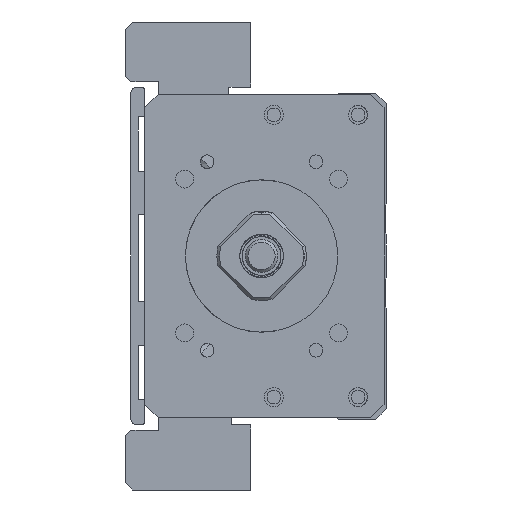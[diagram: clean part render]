
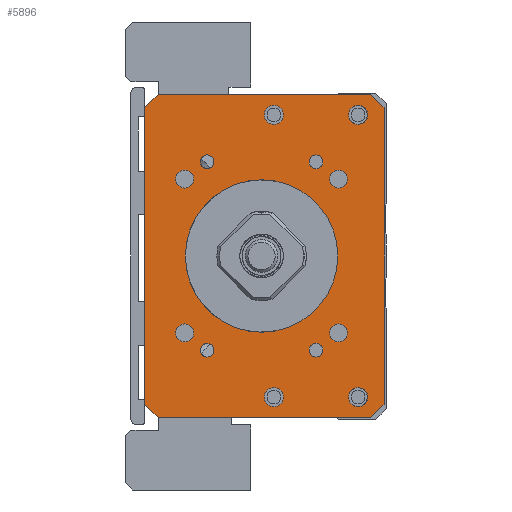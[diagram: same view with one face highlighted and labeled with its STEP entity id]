
A CAD part, left-side view. The second image highlights one B-rep face of the part: STEP entity #5896.
In plain terms, the highlighted planar face has unit normal (-1, 0, 0).
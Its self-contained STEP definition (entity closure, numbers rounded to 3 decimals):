
#4696=FACE_BOUND('',#7689,.T.);
#4697=FACE_BOUND('',#7690,.T.);
#4698=FACE_BOUND('',#7691,.T.);
#4699=FACE_BOUND('',#7692,.T.);
#4700=FACE_BOUND('',#7693,.T.);
#4701=FACE_BOUND('',#7694,.T.);
#4702=FACE_BOUND('',#7695,.T.);
#4703=FACE_BOUND('',#7696,.T.);
#4704=FACE_BOUND('',#7697,.T.);
#4705=FACE_BOUND('',#7698,.T.);
#4706=FACE_BOUND('',#7699,.T.);
#4707=FACE_BOUND('',#7700,.T.);
#4708=FACE_BOUND('',#7701,.T.);
#4709=FACE_BOUND('',#7702,.T.);
#5253=CIRCLE('',#16497,14.);
#5262=CIRCLE('',#16508,1.65);
#5263=CIRCLE('',#16509,1.65);
#5264=CIRCLE('',#16510,1.65);
#5265=CIRCLE('',#16511,1.65);
#5266=CIRCLE('',#16512,1.25);
#5267=CIRCLE('',#16513,1.75);
#5268=CIRCLE('',#16514,1.25);
#5269=CIRCLE('',#16515,1.75);
#5270=CIRCLE('',#16516,1.25);
#5271=CIRCLE('',#16517,1.75);
#5272=CIRCLE('',#16518,1.75);
#5273=CIRCLE('',#16519,1.25);
#5896=ADVANCED_FACE('',(#4696,#4697,#4698,#4699,#4700,#4701,#4702,#4703,
#4704,#4705,#4706,#4707,#4708,#4709),#6419,.F.);
#6419=PLANE('',#16520);
#7689=EDGE_LOOP('',(#10368));
#7690=EDGE_LOOP('',(#10369));
#7691=EDGE_LOOP('',(#10370));
#7692=EDGE_LOOP('',(#10371));
#7693=EDGE_LOOP('',(#10372));
#7694=EDGE_LOOP('',(#10373));
#7695=EDGE_LOOP('',(#10374));
#7696=EDGE_LOOP('',(#10375));
#7697=EDGE_LOOP('',(#10376));
#7698=EDGE_LOOP('',(#10377,#10378,#10379,#10380,#10381,#10382,#10383,#10384));
#7699=EDGE_LOOP('',(#10385));
#7700=EDGE_LOOP('',(#10386));
#7701=EDGE_LOOP('',(#10387));
#7702=EDGE_LOOP('',(#10388));
#10368=ORIENTED_EDGE('',*,*,#13389,.F.);
#10369=ORIENTED_EDGE('',*,*,#13390,.F.);
#10370=ORIENTED_EDGE('',*,*,#13391,.F.);
#10371=ORIENTED_EDGE('',*,*,#13392,.F.);
#10372=ORIENTED_EDGE('',*,*,#13393,.F.);
#10373=ORIENTED_EDGE('',*,*,#13394,.T.);
#10374=ORIENTED_EDGE('',*,*,#13395,.F.);
#10375=ORIENTED_EDGE('',*,*,#13396,.F.);
#10376=ORIENTED_EDGE('',*,*,#13397,.F.);
#10377=ORIENTED_EDGE('',*,*,#13386,.T.);
#10378=ORIENTED_EDGE('',*,*,#13398,.T.);
#10379=ORIENTED_EDGE('',*,*,#13399,.F.);
#10380=ORIENTED_EDGE('',*,*,#13400,.T.);
#10381=ORIENTED_EDGE('',*,*,#13401,.F.);
#10382=ORIENTED_EDGE('',*,*,#13402,.T.);
#10383=ORIENTED_EDGE('',*,*,#13403,.T.);
#10384=ORIENTED_EDGE('',*,*,#13404,.T.);
#10385=ORIENTED_EDGE('',*,*,#13405,.F.);
#10386=ORIENTED_EDGE('',*,*,#13406,.F.);
#10387=ORIENTED_EDGE('',*,*,#13407,.F.);
#10388=ORIENTED_EDGE('',*,*,#13366,.F.);
#11929=VERTEX_POINT('',#22887);
#11949=VERTEX_POINT('',#22963);
#11950=VERTEX_POINT('',#22965);
#11952=VERTEX_POINT('',#22971);
#11953=VERTEX_POINT('',#22973);
#11954=VERTEX_POINT('',#22975);
#11955=VERTEX_POINT('',#22977);
#11956=VERTEX_POINT('',#22979);
#11957=VERTEX_POINT('',#22981);
#11958=VERTEX_POINT('',#22983);
#11959=VERTEX_POINT('',#22985);
#11960=VERTEX_POINT('',#22987);
#11961=VERTEX_POINT('',#22989);
#11962=VERTEX_POINT('',#22991);
#11963=VERTEX_POINT('',#22993);
#11964=VERTEX_POINT('',#22995);
#11965=VERTEX_POINT('',#22997);
#11966=VERTEX_POINT('',#22999);
#11967=VERTEX_POINT('',#23002);
#11968=VERTEX_POINT('',#23004);
#11969=VERTEX_POINT('',#23006);
#13366=EDGE_CURVE('',#11929,#11929,#5253,.T.);
#13386=EDGE_CURVE('',#11950,#11949,#14566,.T.);
#13389=EDGE_CURVE('',#11952,#11952,#5262,.T.);
#13390=EDGE_CURVE('',#11953,#11953,#5263,.T.);
#13391=EDGE_CURVE('',#11954,#11954,#5264,.T.);
#13392=EDGE_CURVE('',#11955,#11955,#5265,.T.);
#13393=EDGE_CURVE('',#11956,#11956,#5266,.T.);
#13394=EDGE_CURVE('',#11957,#11957,#5267,.T.);
#13395=EDGE_CURVE('',#11958,#11958,#5268,.T.);
#13396=EDGE_CURVE('',#11959,#11959,#5269,.T.);
#13397=EDGE_CURVE('',#11960,#11960,#5270,.T.);
#13398=EDGE_CURVE('',#11949,#11961,#14568,.T.);
#13399=EDGE_CURVE('',#11962,#11961,#14569,.T.);
#13400=EDGE_CURVE('',#11962,#11963,#14570,.T.);
#13401=EDGE_CURVE('',#11964,#11963,#14571,.T.);
#13402=EDGE_CURVE('',#11964,#11965,#14572,.T.);
#13403=EDGE_CURVE('',#11965,#11966,#14573,.T.);
#13404=EDGE_CURVE('',#11966,#11950,#14574,.T.);
#13405=EDGE_CURVE('',#11967,#11967,#5271,.T.);
#13406=EDGE_CURVE('',#11968,#11968,#5272,.T.);
#13407=EDGE_CURVE('',#11969,#11969,#5273,.T.);
#14566=LINE('',#22964,#15531);
#14568=LINE('',#22988,#15533);
#14569=LINE('',#22990,#15534);
#14570=LINE('',#22992,#15535);
#14571=LINE('',#22994,#15536);
#14572=LINE('',#22996,#15537);
#14573=LINE('',#22998,#15538);
#14574=LINE('',#23000,#15539);
#15531=VECTOR('',#19301,1.);
#15533=VECTOR('',#19325,1.);
#15534=VECTOR('',#19326,1.);
#15535=VECTOR('',#19327,1.);
#15536=VECTOR('',#19328,1.);
#15537=VECTOR('',#19329,1.);
#15538=VECTOR('',#19330,1.);
#15539=VECTOR('',#19331,1.);
#16497=AXIS2_PLACEMENT_3D('',#22886,#19275,#19276);
#16508=AXIS2_PLACEMENT_3D('',#22970,#19307,#19308);
#16509=AXIS2_PLACEMENT_3D('',#22972,#19309,#19310);
#16510=AXIS2_PLACEMENT_3D('',#22974,#19311,#19312);
#16511=AXIS2_PLACEMENT_3D('',#22976,#19313,#19314);
#16512=AXIS2_PLACEMENT_3D('',#22978,#19315,#19316);
#16513=AXIS2_PLACEMENT_3D('',#22980,#19317,#19318);
#16514=AXIS2_PLACEMENT_3D('',#22982,#19319,#19320);
#16515=AXIS2_PLACEMENT_3D('',#22984,#19321,#19322);
#16516=AXIS2_PLACEMENT_3D('',#22986,#19323,#19324);
#16517=AXIS2_PLACEMENT_3D('',#23001,#19332,#19333);
#16518=AXIS2_PLACEMENT_3D('',#23003,#19334,#19335);
#16519=AXIS2_PLACEMENT_3D('',#23005,#19336,#19337);
#16520=AXIS2_PLACEMENT_3D('',#23007,#19338,#19339);
#19275=DIRECTION('',(-1.,0.,0.));
#19276=DIRECTION('',(0.,1.,0.));
#19301=DIRECTION('',(0.,0.,-1.));
#19307=DIRECTION('',(-1.,0.,0.));
#19308=DIRECTION('',(0.,0.,1.));
#19309=DIRECTION('',(-1.,0.,0.));
#19310=DIRECTION('',(0.,0.,1.));
#19311=DIRECTION('',(-1.,0.,0.));
#19312=DIRECTION('',(0.,0.,1.));
#19313=DIRECTION('',(-1.,0.,0.));
#19314=DIRECTION('',(0.,0.,1.));
#19315=DIRECTION('',(-1.,0.,0.));
#19316=DIRECTION('',(0.,1.,0.));
#19317=DIRECTION('',(1.,0.,0.));
#19318=DIRECTION('',(0.,0.,1.));
#19319=DIRECTION('',(-1.,0.,0.));
#19320=DIRECTION('',(0.,1.,0.));
#19321=DIRECTION('',(-1.,0.,0.));
#19322=DIRECTION('',(0.,0.,1.));
#19323=DIRECTION('',(-1.,0.,0.));
#19324=DIRECTION('',(0.,1.,0.));
#19325=DIRECTION('',(0.,-0.707,-0.707));
#19326=DIRECTION('',(0.,1.,0.));
#19327=DIRECTION('',(0.,-0.707,0.707));
#19328=DIRECTION('',(0.,0.,-1.));
#19329=DIRECTION('',(0.,0.707,0.707));
#19330=DIRECTION('',(0.,1.,0.));
#19331=DIRECTION('',(0.,0.707,-0.707));
#19332=DIRECTION('',(-1.,0.,0.));
#19333=DIRECTION('',(0.,0.,1.));
#19334=DIRECTION('',(-1.,0.,0.));
#19335=DIRECTION('',(0.,0.,1.));
#19336=DIRECTION('',(-1.,0.,0.));
#19337=DIRECTION('',(0.,1.,0.));
#19338=DIRECTION('',(1.,0.,0.));
#19339=DIRECTION('',(0.,1.,0.));
#22886=CARTESIAN_POINT('',(-211.,0.,-400.));
#22887=CARTESIAN_POINT('',(-211.,14.,-400.));
#22963=CARTESIAN_POINT('',(-211.,21.499,-427.25));
#22964=CARTESIAN_POINT('',(-211.,21.499,-370.25));
#22965=CARTESIAN_POINT('',(-211.,21.499,-372.75));
#22970=CARTESIAN_POINT('',(-211.,14.142,-385.858));
#22971=CARTESIAN_POINT('',(-211.,14.142,-384.208));
#22972=CARTESIAN_POINT('',(-211.,-14.142,-385.858));
#22973=CARTESIAN_POINT('',(-211.,-14.142,-384.208));
#22974=CARTESIAN_POINT('',(-211.,14.142,-414.142));
#22975=CARTESIAN_POINT('',(-211.,14.142,-412.492));
#22976=CARTESIAN_POINT('',(-211.,-14.142,-414.142));
#22977=CARTESIAN_POINT('',(-211.,-14.142,-412.492));
#22978=CARTESIAN_POINT('',(-211.,-10.,-417.321));
#22979=CARTESIAN_POINT('',(-211.,-8.75,-417.321));
#22980=CARTESIAN_POINT('',(-211.,-2.25,-425.936));
#22981=CARTESIAN_POINT('',(-211.,-2.25,-424.186));
#22982=CARTESIAN_POINT('',(-211.,10.,-382.679));
#22983=CARTESIAN_POINT('',(-211.,11.25,-382.679));
#22984=CARTESIAN_POINT('',(-211.,-2.25,-374.064));
#22985=CARTESIAN_POINT('',(-211.,-2.25,-372.314));
#22986=CARTESIAN_POINT('',(-211.,10.,-417.321));
#22987=CARTESIAN_POINT('',(-211.,11.25,-417.321));
#22988=CARTESIAN_POINT('',(-211.,18.999,-429.75));
#22989=CARTESIAN_POINT('',(-211.,18.999,-429.75));
#22990=CARTESIAN_POINT('',(-211.,-22.501,-429.75));
#22991=CARTESIAN_POINT('',(-211.,-20.001,-429.75));
#22992=CARTESIAN_POINT('',(-211.,-22.501,-427.25));
#22993=CARTESIAN_POINT('',(-211.,-22.501,-427.25));
#22994=CARTESIAN_POINT('',(-211.,-22.501,-370.25));
#22995=CARTESIAN_POINT('',(-211.,-22.501,-372.75));
#22996=CARTESIAN_POINT('',(-211.,-22.501,-372.75));
#22997=CARTESIAN_POINT('',(-211.,-20.001,-370.25));
#22998=CARTESIAN_POINT('',(-211.,-22.501,-370.25));
#22999=CARTESIAN_POINT('',(-211.,18.999,-370.25));
#23000=CARTESIAN_POINT('',(-211.,18.999,-370.25));
#23001=CARTESIAN_POINT('',(-211.,-17.75,-374.064));
#23002=CARTESIAN_POINT('',(-211.,-17.75,-372.314));
#23003=CARTESIAN_POINT('',(-211.,-17.75,-425.936));
#23004=CARTESIAN_POINT('',(-211.,-17.75,-424.186));
#23005=CARTESIAN_POINT('',(-211.,-10.,-382.679));
#23006=CARTESIAN_POINT('',(-211.,-8.75,-382.679));
#23007=CARTESIAN_POINT('',(-211.,-22.501,-370.25));
